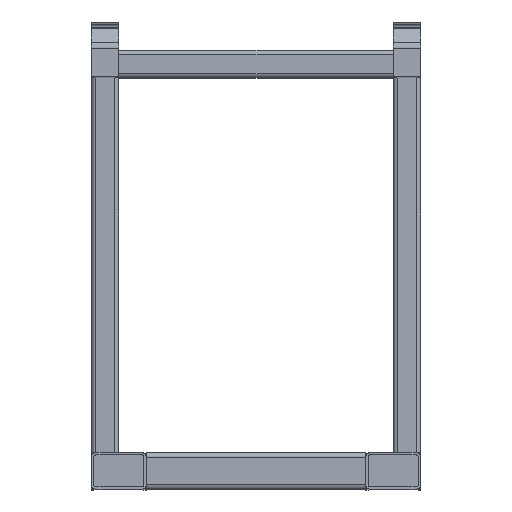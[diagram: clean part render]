
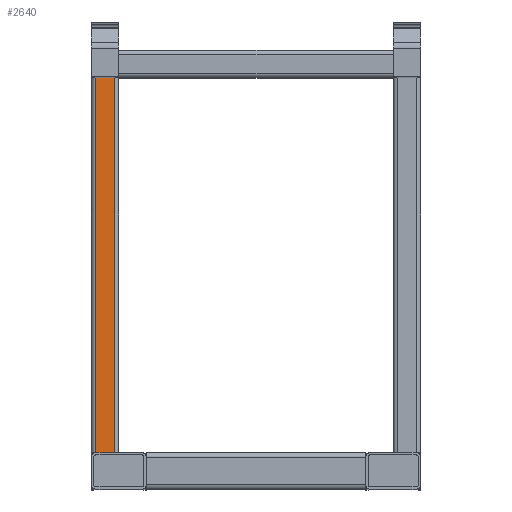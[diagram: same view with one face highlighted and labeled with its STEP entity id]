
A CAD part, top view. The second image highlights one B-rep face of the part: STEP entity #2640.
In plain terms, the highlighted planar face has unit normal (0, 0, 1) as drawn and (0, 1, 0) by its records, which use the part's own axes.
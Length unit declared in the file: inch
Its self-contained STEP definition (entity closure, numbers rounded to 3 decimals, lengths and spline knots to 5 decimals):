
#224=PLANE('',#3023);
#336=FACE_OUTER_BOUND('',#485,.T.);
#485=EDGE_LOOP('',(#2072,#2073,#2074,#2075));
#776=LINE('',#4304,#1028);
#780=LINE('',#4320,#1032);
#790=LINE('',#4347,#1042);
#791=LINE('',#4349,#1043);
#1028=VECTOR('',#3471,0.3937);
#1032=VECTOR('',#3485,0.3937);
#1042=VECTOR('',#3515,0.3937);
#1043=VECTOR('',#3518,0.3937);
#1280=VERTEX_POINT('',#4302);
#1281=VERTEX_POINT('',#4303);
#1288=VERTEX_POINT('',#4319);
#1295=VERTEX_POINT('',#4345);
#1560=EDGE_CURVE('',#1280,#1281,#776,.T.);
#1568=EDGE_CURVE('',#1288,#1281,#780,.T.);
#1582=EDGE_CURVE('',#1280,#1295,#790,.T.);
#1583=EDGE_CURVE('',#1288,#1295,#791,.T.);
#2072=ORIENTED_EDGE('',*,*,#1582,.T.);
#2073=ORIENTED_EDGE('',*,*,#1583,.F.);
#2074=ORIENTED_EDGE('',*,*,#1568,.T.);
#2075=ORIENTED_EDGE('',*,*,#1560,.F.);
#2640=ADVANCED_FACE('',(#336),#224,.T.);
#3023=AXIS2_PLACEMENT_3D('',#4348,#3516,#3517);
#3471=DIRECTION('',(1.,0.,0.));
#3485=DIRECTION('',(0.,0.,-1.));
#3515=DIRECTION('',(0.,0.,1.));
#3516=DIRECTION('center_axis',(0.,1.,0.));
#3517=DIRECTION('ref_axis',(-1.,0.,0.));
#3518=DIRECTION('',(-1.,0.,0.));
#4302=CARTESIAN_POINT('',(-1.,1.5,-20.5));
#4303=CARTESIAN_POINT('',(1.,1.5,-20.5));
#4304=CARTESIAN_POINT('',(-1.,1.5,-20.5));
#4319=CARTESIAN_POINT('',(1.,1.5,20.5));
#4320=CARTESIAN_POINT('',(1.,1.5,0.));
#4345=CARTESIAN_POINT('',(-1.,1.5,20.5));
#4347=CARTESIAN_POINT('',(-1.,1.5,0.));
#4348=CARTESIAN_POINT('Origin',(1.,1.5,0.));
#4349=CARTESIAN_POINT('',(-1.,1.5,20.5));
